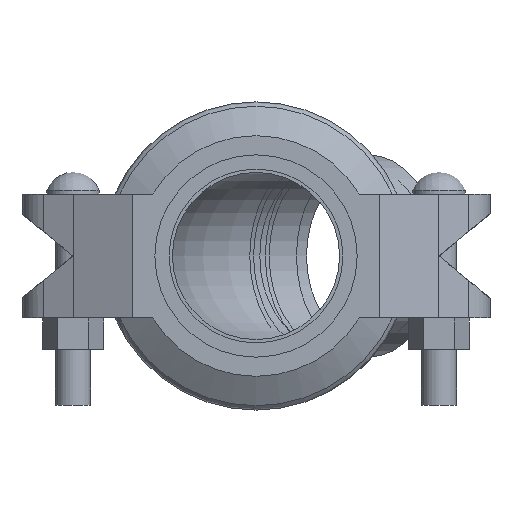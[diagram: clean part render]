
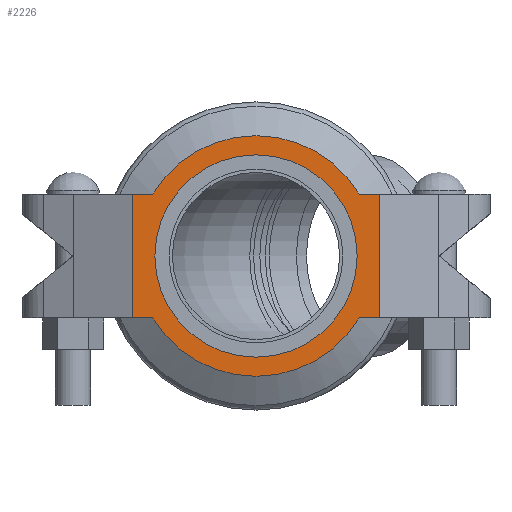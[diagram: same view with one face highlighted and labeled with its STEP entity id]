
A CAD part, left-side view. The second image highlights one B-rep face of the part: STEP entity #2226.
In plain terms, the highlighted planar face has unit normal (-1, 0, 0) as drawn and (0, 0, 1) by its records, which use the part's own axes.
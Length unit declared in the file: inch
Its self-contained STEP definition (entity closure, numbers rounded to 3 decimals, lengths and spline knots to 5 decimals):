
#142=LINE('',#3597,#307);
#155=LINE('',#3631,#320);
#156=LINE('',#3635,#321);
#157=LINE('',#3637,#322);
#158=LINE('',#3639,#323);
#159=LINE('',#3642,#324);
#307=VECTOR('',#2934,0.3937);
#320=VECTOR('',#2973,0.3937);
#321=VECTOR('',#2976,0.3937);
#322=VECTOR('',#2977,0.3937);
#323=VECTOR('',#2978,0.3937);
#324=VECTOR('',#2981,0.3937);
#452=FACE_BOUND('',#644,.T.);
#517=FACE_OUTER_BOUND('',#643,.T.);
#643=EDGE_LOOP('',(#1622,#1623,#1624,#1625,#1626,#1627,#1628,#1629));
#644=EDGE_LOOP('',(#1630,#1631));
#782=CIRCLE('',#2513,1.71);
#783=CIRCLE('',#2514,1.71);
#784=CIRCLE('',#2515,1.4375);
#785=CIRCLE('',#2516,1.4375);
#933=VERTEX_POINT('',#3594);
#934=VERTEX_POINT('',#3596);
#942=VERTEX_POINT('',#3630);
#943=VERTEX_POINT('',#3632);
#944=VERTEX_POINT('',#3634);
#945=VERTEX_POINT('',#3636);
#946=VERTEX_POINT('',#3638);
#947=VERTEX_POINT('',#3640);
#948=VERTEX_POINT('',#3643);
#949=VERTEX_POINT('',#3644);
#1179=EDGE_CURVE('',#934,#933,#142,.T.);
#1195=EDGE_CURVE('',#933,#942,#155,.T.);
#1196=EDGE_CURVE('',#943,#942,#782,.T.);
#1197=EDGE_CURVE('',#944,#943,#156,.T.);
#1198=EDGE_CURVE('',#944,#945,#157,.T.);
#1199=EDGE_CURVE('',#945,#946,#158,.T.);
#1200=EDGE_CURVE('',#947,#946,#783,.T.);
#1201=EDGE_CURVE('',#934,#947,#159,.T.);
#1202=EDGE_CURVE('',#948,#949,#784,.T.);
#1203=EDGE_CURVE('',#949,#948,#785,.T.);
#1622=ORIENTED_EDGE('',*,*,#1179,.T.);
#1623=ORIENTED_EDGE('',*,*,#1195,.T.);
#1624=ORIENTED_EDGE('',*,*,#1196,.F.);
#1625=ORIENTED_EDGE('',*,*,#1197,.F.);
#1626=ORIENTED_EDGE('',*,*,#1198,.T.);
#1627=ORIENTED_EDGE('',*,*,#1199,.T.);
#1628=ORIENTED_EDGE('',*,*,#1200,.F.);
#1629=ORIENTED_EDGE('',*,*,#1201,.F.);
#1630=ORIENTED_EDGE('',*,*,#1202,.T.);
#1631=ORIENTED_EDGE('',*,*,#1203,.T.);
#2016=PLANE('',#2512);
#2226=ADVANCED_FACE('',(#517,#452),#2016,.T.);
#2512=AXIS2_PLACEMENT_3D('',#3629,#2971,#2972);
#2513=AXIS2_PLACEMENT_3D('',#3633,#2974,#2975);
#2514=AXIS2_PLACEMENT_3D('',#3641,#2979,#2980);
#2515=AXIS2_PLACEMENT_3D('',#3645,#2982,#2983);
#2516=AXIS2_PLACEMENT_3D('',#3646,#2984,#2985);
#2934=DIRECTION('',(0.,-1.,0.));
#2971=DIRECTION('center_axis',(0.,0.,1.));
#2972=DIRECTION('ref_axis',(1.,0.,0.));
#2973=DIRECTION('',(1.,0.,0.));
#2974=DIRECTION('center_axis',(0.,0.,-1.));
#2975=DIRECTION('ref_axis',(-1.,0.,0.));
#2976=DIRECTION('',(-1.,0.,0.));
#2977=DIRECTION('',(0.,1.,0.));
#2978=DIRECTION('',(-1.,0.,0.));
#2979=DIRECTION('center_axis',(0.,0.,-1.));
#2980=DIRECTION('ref_axis',(-1.,0.,0.));
#2981=DIRECTION('',(1.,0.,0.));
#2982=DIRECTION('center_axis',(0.,0.,-1.));
#2983=DIRECTION('ref_axis',(-1.,0.,0.));
#2984=DIRECTION('center_axis',(0.,0.,-1.));
#2985=DIRECTION('ref_axis',(-1.,0.,0.));
#3594=CARTESIAN_POINT('',(-1.75,-0.88,1.065));
#3596=CARTESIAN_POINT('',(-1.75,0.88,1.065));
#3597=CARTESIAN_POINT('',(-1.75,1.295,1.065));
#3629=CARTESIAN_POINT('Origin',(0.,1.71,1.065));
#3630=CARTESIAN_POINT('',(-1.46619,-0.88,1.065));
#3631=CARTESIAN_POINT('',(-3.32554,-0.88,1.065));
#3632=CARTESIAN_POINT('',(1.46619,-0.88,1.065));
#3633=CARTESIAN_POINT('Origin',(0.,0.,1.065));
#3634=CARTESIAN_POINT('',(1.75,-0.88,1.065));
#3635=CARTESIAN_POINT('',(3.32554,-0.88,1.065));
#3636=CARTESIAN_POINT('',(1.75,0.88,1.065));
#3637=CARTESIAN_POINT('',(1.75,1.295,1.065));
#3638=CARTESIAN_POINT('',(1.46619,0.88,1.065));
#3639=CARTESIAN_POINT('',(3.32554,0.88,1.065));
#3640=CARTESIAN_POINT('',(-1.46619,0.88,1.065));
#3641=CARTESIAN_POINT('Origin',(0.,0.,1.065));
#3642=CARTESIAN_POINT('',(-3.32554,0.88,1.065));
#3643=CARTESIAN_POINT('',(0.,1.4375,1.065));
#3644=CARTESIAN_POINT('',(0.,-1.4375,1.065));
#3645=CARTESIAN_POINT('Origin',(0.,0.,1.065));
#3646=CARTESIAN_POINT('Origin',(0.,0.,1.065));
